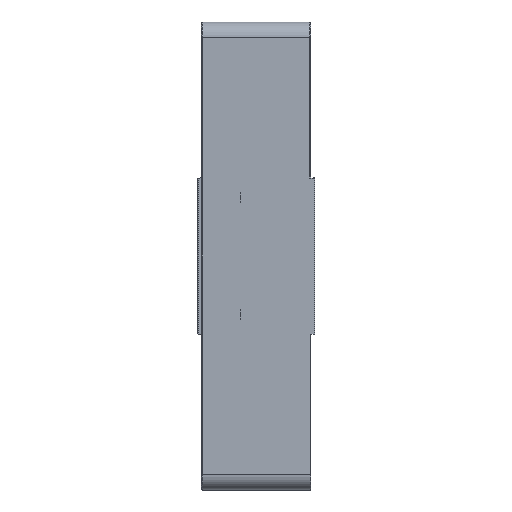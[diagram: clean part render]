
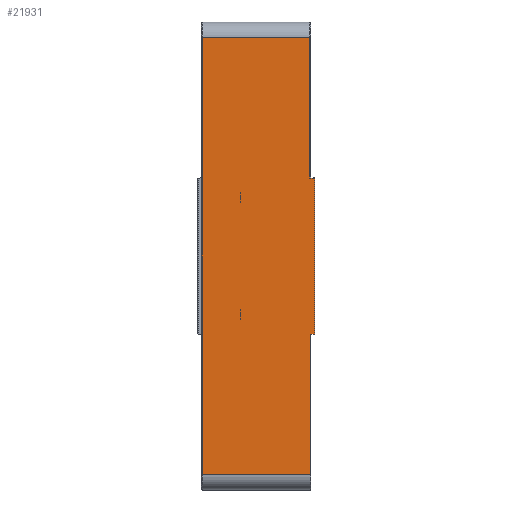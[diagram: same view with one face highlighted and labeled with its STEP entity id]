
A CAD part, left-side view. The second image highlights one B-rep face of the part: STEP entity #21931.
In plain terms, the highlighted planar face has unit normal (-1, 0, 0).
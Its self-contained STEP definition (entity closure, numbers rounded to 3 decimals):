
#121 = VERTEX_POINT ( 'NONE', #30863 ) ;
#511 = ORIENTED_EDGE ( 'NONE', *, *, #29183, .F. ) ;
#1401 = DIRECTION ( 'NONE',  ( 0., 0., -1. ) ) ;
#3305 = CARTESIAN_POINT ( 'NONE',  ( -60., -14., 20. ) ) ;
#3312 = ORIENTED_EDGE ( 'NONE', *, *, #27667, .T. ) ;
#4373 = VERTEX_POINT ( 'NONE', #17646 ) ;
#4588 = VERTEX_POINT ( 'NONE', #6940 ) ;
#5424 = DIRECTION ( 'NONE',  ( 1., 0., 0. ) ) ;
#5810 = ORIENTED_EDGE ( 'NONE', *, *, #31284, .T. ) ;
#6490 = ORIENTED_EDGE ( 'NONE', *, *, #23268, .T. ) ;
#6940 = CARTESIAN_POINT ( 'NONE',  ( -60., 13.8, -56. ) ) ;
#7317 = CARTESIAN_POINT ( 'NONE',  ( -60., -13.8, 56. ) ) ;
#8409 = EDGE_CURVE ( 'NONE', #33969, #14938, #35402, .T. ) ;
#8904 = LINE ( 'NONE', #31995, #33127 ) ;
#9403 = CARTESIAN_POINT ( 'NONE',  ( -60., -13.8, 20. ) ) ;
#10052 = VERTEX_POINT ( 'NONE', #30919 ) ;
#10715 = CARTESIAN_POINT ( 'NONE',  ( -60., 13.8, -56. ) ) ;
#11628 = LINE ( 'NONE', #31707, #13066 ) ;
#12955 = EDGE_CURVE ( 'NONE', #16160, #4588, #35738, .T. ) ;
#13066 = VECTOR ( 'NONE', #17817, 1000. ) ;
#13684 = FACE_OUTER_BOUND ( 'NONE', #17340, .T. ) ;
#13692 = ORIENTED_EDGE ( 'NONE', *, *, #12955, .T. ) ;
#14938 = VERTEX_POINT ( 'NONE', #25599 ) ;
#16160 = VERTEX_POINT ( 'NONE', #35091 ) ;
#16172 = VECTOR ( 'NONE', #1401, 1000. ) ;
#16871 = DIRECTION ( 'NONE',  ( 0., 0., -1. ) ) ;
#17056 = ORIENTED_EDGE ( 'NONE', *, *, #17309, .T. ) ;
#17309 = EDGE_CURVE ( 'NONE', #4588, #4373, #20355, .T. ) ;
#17340 = EDGE_LOOP ( 'NONE', ( #29500, #5810, #511, #13692, #17056, #25745, #6490, #3312 ) ) ;
#17646 = CARTESIAN_POINT ( 'NONE',  ( -60., -14., -56. ) ) ;
#17817 = DIRECTION ( 'NONE',  ( 0., 0., 1. ) ) ;
#18764 = DIRECTION ( 'NONE',  ( 0., 0., 1. ) ) ;
#18870 = CARTESIAN_POINT ( 'NONE',  ( -60., 15., 56. ) ) ;
#19092 = VECTOR ( 'NONE', #21689, 1000. ) ;
#20355 = LINE ( 'NONE', #35508, #33991 ) ;
#20593 = VERTEX_POINT ( 'NONE', #32924 ) ;
#21689 = DIRECTION ( 'NONE',  ( 0., -1., 0. ) ) ;
#21931 = ADVANCED_FACE ( 'NONE', ( #13684 ), #24966, .F. ) ;
#22141 = EDGE_CURVE ( 'NONE', #20593, #4373, #8904, .T. ) ;
#22836 = VECTOR ( 'NONE', #18764, 1000. ) ;
#22918 = AXIS2_PLACEMENT_3D ( 'NONE', #24796, #5424, #16871 ) ;
#23268 = EDGE_CURVE ( 'NONE', #20593, #10052, #26782, .T. ) ;
#23423 = DIRECTION ( 'NONE',  ( 0., -1., 0. ) ) ;
#24176 = VECTOR ( 'NONE', #23423, 1000. ) ;
#24796 = CARTESIAN_POINT ( 'NONE',  ( -60., 15., -56. ) ) ;
#24966 = PLANE ( 'NONE',  #22918 ) ;
#25599 = CARTESIAN_POINT ( 'NONE',  ( -60., -15., 20. ) ) ;
#25745 = ORIENTED_EDGE ( 'NONE', *, *, #22141, .F. ) ;
#26782 = LINE ( 'NONE', #34858, #24176 ) ;
#27667 = EDGE_CURVE ( 'NONE', #10052, #14938, #11628, .T. ) ;
#29183 = EDGE_CURVE ( 'NONE', #16160, #121, #35952, .T. ) ;
#29392 = DIRECTION ( 'NONE',  ( 0., -1., 0. ) ) ;
#29500 = ORIENTED_EDGE ( 'NONE', *, *, #8409, .F. ) ;
#30402 = VECTOR ( 'NONE', #29392, 1000. ) ;
#30863 = CARTESIAN_POINT ( 'NONE',  ( -60., -13.8, 56. ) ) ;
#30919 = CARTESIAN_POINT ( 'NONE',  ( -60., -15., -20. ) ) ;
#31284 = EDGE_CURVE ( 'NONE', #33969, #121, #33017, .T. ) ;
#31707 = CARTESIAN_POINT ( 'NONE',  ( -60., -15., -56. ) ) ;
#31803 = DIRECTION ( 'NONE',  ( 0., 0., -1. ) ) ;
#31995 = CARTESIAN_POINT ( 'NONE',  ( -60., -14., -56. ) ) ;
#32924 = CARTESIAN_POINT ( 'NONE',  ( -60., -14., -20. ) ) ;
#33017 = LINE ( 'NONE', #7317, #22836 ) ;
#33127 = VECTOR ( 'NONE', #31803, 1000. ) ;
#33969 = VERTEX_POINT ( 'NONE', #9403 ) ;
#33991 = VECTOR ( 'NONE', #34808, 1000. ) ;
#34808 = DIRECTION ( 'NONE',  ( 0., -1., 0. ) ) ;
#34858 = CARTESIAN_POINT ( 'NONE',  ( -60., -14., -20. ) ) ;
#35091 = CARTESIAN_POINT ( 'NONE',  ( -60., 13.8, 56. ) ) ;
#35402 = LINE ( 'NONE', #3305, #30402 ) ;
#35508 = CARTESIAN_POINT ( 'NONE',  ( -60., 15., -56. ) ) ;
#35738 = LINE ( 'NONE', #10715, #16172 ) ;
#35952 = LINE ( 'NONE', #18870, #19092 ) ;
